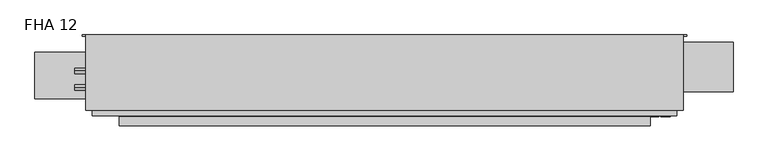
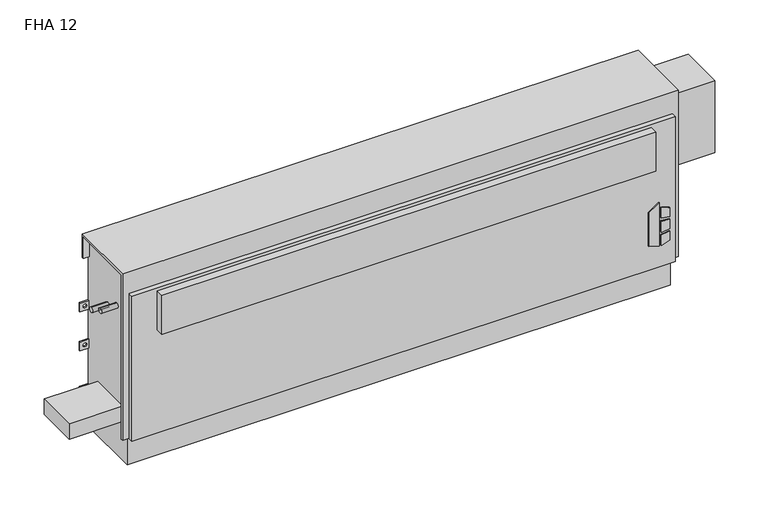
"""IFC4 building model written with IfcOpenShell, lengths in millimetres: proxy geometry, Vertical_Fan_Coil_Unit_-_FHA_-_IEC_-_2-Pipe_FS-FR_LH_2022 : FHA 12."""

from ifc_helpers import new_model, si_unit, point, frame, frame_2d, origin, place, context, project, spatial, polyline, circle_curve, trimmed, segment, composite_curve, outline, extrude, source, transform, mapped, element, save
from ifc_brep_helpers import plane_surface, revolved_surface, advanced_brep


def fha_12_b9f33cbb(model_context):
    return source(origin(), model_context, "Body", "SolidModel", [
        extrude(outline(polyline([(172.5771459, 906.5368862), (162.6290756, 938.7102728), (304.8, 938.7102728), (281.7779939, 906.5368862), (172.5771459, 906.5368862)])), frame((0.0, 9.525, 0.0), z_axis=(0.0, 1.0, 0.0), x_axis=(0.0, 0.0, 1.0)), (0.0, 0.0, 1.0), 3.175),
        extrude(outline(polyline([(251.5764313, 945.4686058), (248.3740387, 971.55), (277.6028798, 971.55), (285.6672948, 945.4686058), (251.5764313, 945.4686058)])), frame((0.0, 9.525, 0.0), z_axis=(0.0, 1.0, 0.0), x_axis=(0.0, 0.0, 1.0)), (0.0, 0.0, 1.0), 3.175),
        extrude(outline(polyline([(199.7129044, 971.55), (196.0474034, 945.4686058), (162.6290756, 945.4686058), (171.2633128, 971.55), (199.7129044, 971.55)])), frame((0.0, 9.525, 0.0), z_axis=(0.0, 1.0, 0.0), x_axis=(0.0, 0.0, 1.0)), (0.0, 0.0, 1.0), 3.175),
        extrude(outline(polyline([(239.0280658, 971.55), (241.3098921, 945.4686058), (205.3723436, 945.4686058), (208.1136086, 971.55), (239.0280658, 971.55)])), frame((0.0, 9.525, 0.0), z_axis=(0.0, 1.0, 0.0), x_axis=(0.0, 0.0, 1.0)), (0.0, 0.0, 1.0), 3.175),
        extrude(outline(composite_curve([segment(trimmed(circle_curve(frame_2d((-749.3, 128.5875)), 9.525), [point((-758.825, 128.5875))], [point((-739.775, 128.5875))], False, "CARTESIAN"), True, "CONTINUOUS"), segment(trimmed(circle_curve(frame_2d((-749.3, 128.5875)), 9.525), [point((-739.775, 128.5875))], [point((-758.825, 128.5875))], False, "CARTESIAN"), True, "CONTINUOUS")], self_intersect=False)), frame((0.0, 0.0, 101.6), z_axis=(0.0, 0.0, 1.0), x_axis=(1.0, 0.0, 0.0)), (0.0, 0.0, 1.0), 25.4),
        extrude(outline(polyline([(-850.9, 61.9125), (-850.9, 195.2625), (-685.8, 195.2625), (-685.8, 61.9125), (-850.9, 61.9125)])), frame((0.0, 0.0, 127.0), z_axis=(0.0, 0.0, 1.0), x_axis=(1.0, 0.0, 0.0)), (0.0, 0.0, 1.0), 50.8),
        extrude(outline(polyline([(914.4, -15.875), (-609.6, -15.875), (-609.6, 9.525), (914.4, 9.525), (914.4, -15.875)])), frame((0.0, 0.0, 431.8), z_axis=(0.0, 0.0, 1.0), x_axis=(1.0, 0.0, 0.0)), (0.0, 0.0, 1.0), 127.0),
        extrude(outline(composite_curve([segment(trimmed(circle_curve(frame_2d((93.1926, 488.0102)), 7.9375), [point((93.1926, 495.9477))], [point((93.1926, 480.0727))], False, "CARTESIAN"), True, "CONTINUOUS"), segment(trimmed(circle_curve(frame_2d((93.1926, 488.0102)), 7.9375), [point((93.1926, 480.0727))], [point((93.1926, 495.9477))], False, "CARTESIAN"), True, "CONTINUOUS")], self_intersect=False)), frame((-736.6, 0.0, 0.0), z_axis=(1.0, 0.0, 0.0), x_axis=(0.0, 1.0, 0.0)), (0.0, 0.0, 1.0), 50.8),
        extrude(outline(composite_curve([segment(trimmed(circle_curve(frame_2d((141.3002, 461.3402)), 7.9375), [point((141.3002, 469.2777))], [point((141.3002, 453.4027))], False, "CARTESIAN"), True, "CONTINUOUS"), segment(trimmed(circle_curve(frame_2d((141.3002, 461.3402)), 7.9375), [point((141.3002, 453.4027))], [point((141.3002, 469.2777))], False, "CARTESIAN"), True, "CONTINUOUS")], self_intersect=False)), frame((-736.6, 0.0, 0.0), z_axis=(1.0, 0.0, 0.0), x_axis=(0.0, 1.0, 0.0)), (0.0, 0.0, 1.0), 50.8),
        extrude(outline(polyline([(1152.525, 223.266), (1152.525, 81.534), (990.6, 81.534), (990.6, 223.266), (1152.525, 223.266)])), frame((0.0, 0.0, 349.25), z_axis=(0.0, 0.0, 1.0), x_axis=(1.0, 0.0, 0.0)), (0.0, 0.0, 1.0), 234.95),
        advanced_brep(
        [(1009.65, 244.475, 635.0), (-704.85, 244.475, 635.0), (-704.85, 28.575, 635.0), (1009.65, 28.575, 635.0), (-685.8, 244.475, 0.0), (990.6, 244.475, 0.0), (990.6, 38.1, 0.0), (-685.8, 38.1, 0.0), (1009.65, 244.475, 558.8), (990.6, 244.475, 558.8), (990.6, 244.475, 414.3375), (1019.175, 244.475, 414.3375), (1019.175, 244.475, 385.7625), (990.6, 244.475, 385.7625), (990.6, 244.475, 287.3375), (1019.175, 244.475, 287.3375), (1019.175, 244.475, 258.7625), (990.6, 244.475, 258.7625), (990.6, 244.475, 141.2875), (1019.175, 244.475, 141.2875), (1019.175, 244.475, 112.7125), (990.6, 244.475, 112.7125), (-685.8, 244.475, 112.7125), (-714.375, 244.475, 112.7125), (-714.375, 244.475, 141.2875), (-685.8, 244.475, 141.2875), (-685.8, 244.475, 258.7625), (-714.375, 244.475, 258.7625), (-714.375, 244.475, 287.3375), (-685.8, 244.475, 287.3375), (-685.8, 244.475, 385.7625), (-714.375, 244.475, 385.7625), (-714.375, 244.475, 414.3375), (-685.8, 244.475, 414.3375), (-685.8, 244.475, 558.8), (-704.85, 244.475, 558.8), (1008.8626, 244.475, 127.0), (997.7374, 244.475, 127.0), (-692.9374, 244.475, 127.0), (-704.0626, 244.475, 127.0), (1008.8626, 244.475, 273.05), (997.7374, 244.475, 273.05), (-692.9374, 244.475, 273.05), (-704.0626, 244.475, 273.05), (1008.8626, 244.475, 400.05), (997.7374, 244.475, 400.05), (-692.9374, 244.475, 400.05), (-704.0626, 244.475, 400.05), (-704.85, 238.125, 558.8), (-704.85, 238.125, 628.65), (-704.85, 34.925, 628.65), (-704.85, 34.925, 92.075), (-704.85, 28.575, 92.075), (990.6, 12.7, 565.15), (-685.8, 12.7, 565.15), (-685.8, 12.7, 92.075), (990.6, 12.7, 92.075), (1009.65, 28.575, 92.075), (1009.65, 34.925, 92.075), (1009.65, 34.925, 628.65), (1009.65, 238.125, 628.65), (1009.65, 238.125, 558.8), (-685.8, 28.575, 92.075), (-685.8, 28.575, 565.15), (990.6, 28.575, 565.15), (990.6, 28.575, 92.075), (-685.8, 34.925, 92.075), (-685.8, 38.1, 92.075), (990.6, 38.1, 92.075), (990.6, 34.925, 92.075), (990.6, 241.3, 112.7125), (990.6, 241.3, 141.2875), (990.6, 241.3, 258.7625), (990.6, 241.3, 287.3375), (990.6, 241.3, 385.7625), (990.6, 241.3, 414.3375), (990.6, 238.125, 558.8), (990.6, 238.125, 628.65), (990.6, 34.925, 628.65), (-685.8, 34.925, 628.65), (-685.8, 238.125, 628.65), (-685.8, 238.125, 558.8), (-685.8, 241.3, 414.3375), (-685.8, 241.3, 385.7625), (-685.8, 241.3, 287.3375), (-685.8, 241.3, 258.7625), (-685.8, 241.3, 141.2875), (-685.8, 241.3, 112.7125), (1019.175, 241.3, 112.7125), (1019.175, 241.3, 141.2875), (997.7374, 241.3, 127.0), (1008.8626, 241.3, 127.0), (1019.175, 241.3, 258.7625), (1019.175, 241.3, 287.3375), (997.7374, 241.3, 273.05), (1008.8626, 241.3, 273.05), (1019.175, 241.3, 385.7625), (1019.175, 241.3, 414.3375), (997.7374, 241.3, 400.05), (1008.8626, 241.3, 400.05), (-714.375, 241.3, 141.2875), (-714.375, 241.3, 112.7125), (-704.0626, 241.3, 127.0), (-692.9374, 241.3, 127.0), (-714.375, 241.3, 287.3375), (-714.375, 241.3, 258.7625), (-704.0626, 241.3, 273.05), (-692.9374, 241.3, 273.05), (-714.375, 241.3, 414.3375), (-714.375, 241.3, 385.7625), (-704.0626, 241.3, 400.05), (-692.9374, 241.3, 400.05)],
        [
            (0, 1),
            (1, 2),
            (2, 3),
            (3, 0),
            (4, 5),
            (5, 6),
            (6, 7),
            (7, 4),
            (0, 8),
            (8, 9),
            (9, 10),
            (10, 11),
            (11, 12),
            (12, 13),
            (13, 14),
            (14, 15),
            (15, 16),
            (16, 17),
            (17, 18),
            (18, 19),
            (19, 20),
            (20, 21),
            (21, 5),
            (4, 22),
            (22, 23),
            (23, 24),
            (24, 25),
            (25, 26),
            (26, 27),
            (27, 28),
            (28, 29),
            (29, 30),
            (30, 31),
            (31, 32),
            (32, 33),
            (33, 34),
            (34, 35),
            (35, 1),
            (36, 37, circle_curve(frame((1003.3, 244.475, 127.0), z_axis=(0.0, -1.0, 0.0), x_axis=(-1.0, 0.0, 0.0)), 5.5626)),
            (37, 36, circle_curve(frame((1003.3, 244.475, 127.0), z_axis=(0.0, -1.0, 0.0), x_axis=(-1.0, 0.0, 0.0)), 5.5626)),
            (38, 39, circle_curve(frame((-698.5, 244.475, 127.0), z_axis=(0.0, -1.0, 0.0), x_axis=(-1.0, 0.0, 0.0)), 5.5626)),
            (39, 38, circle_curve(frame((-698.5, 244.475, 127.0), z_axis=(0.0, -1.0, 0.0), x_axis=(-1.0, 0.0, 0.0)), 5.5626)),
            (40, 41, circle_curve(frame((1003.3, 244.475, 273.05), z_axis=(0.0, -1.0, 0.0), x_axis=(-1.0, 0.0, 0.0)), 5.5626)),
            (41, 40, circle_curve(frame((1003.3, 244.475, 273.05), z_axis=(0.0, -1.0, 0.0), x_axis=(-1.0, 0.0, 0.0)), 5.5626)),
            (42, 43, circle_curve(frame((-698.5, 244.475, 273.05), z_axis=(0.0, -1.0, 0.0), x_axis=(-1.0, 0.0, 0.0)), 5.5626)),
            (43, 42, circle_curve(frame((-698.5, 244.475, 273.05), z_axis=(0.0, -1.0, 0.0), x_axis=(-1.0, 0.0, 0.0)), 5.5626)),
            (44, 45, circle_curve(frame((1003.3, 244.475, 400.05), z_axis=(0.0, -1.0, 0.0), x_axis=(-1.0, 0.0, 0.0)), 5.5626)),
            (45, 44, circle_curve(frame((1003.3, 244.475, 400.05), z_axis=(0.0, -1.0, 0.0), x_axis=(-1.0, 0.0, 0.0)), 5.5626)),
            (46, 47, circle_curve(frame((-698.5, 244.475, 400.05), z_axis=(0.0, -1.0, 0.0), x_axis=(-1.0, 0.0, 0.0)), 5.5626)),
            (47, 46, circle_curve(frame((-698.5, 244.475, 400.05), z_axis=(0.0, -1.0, 0.0), x_axis=(-1.0, 0.0, 0.0)), 5.5626)),
            (35, 48),
            (48, 49),
            (49, 50),
            (50, 51),
            (51, 52),
            (52, 2),
            (53, 54),
            (54, 55),
            (55, 56),
            (56, 53),
            (3, 57),
            (57, 58),
            (58, 59),
            (59, 60),
            (60, 61),
            (61, 8),
            (52, 62),
            (62, 63),
            (63, 64),
            (64, 65),
            (65, 57),
            (53, 64),
            (63, 54),
            (55, 62),
            (51, 66),
            (66, 67),
            (67, 68),
            (68, 69),
            (69, 58),
            (65, 56),
            (6, 68),
            (67, 7),
            (21, 70),
            (70, 71),
            (71, 18),
            (17, 72),
            (72, 73),
            (73, 14),
            (13, 74),
            (74, 75),
            (75, 10),
            (9, 76),
            (76, 77),
            (77, 78),
            (78, 69),
            (66, 79),
            (79, 80),
            (80, 81),
            (81, 34),
            (33, 82),
            (82, 83),
            (83, 30),
            (29, 84),
            (84, 85),
            (85, 26),
            (25, 86),
            (86, 87),
            (87, 22),
            (76, 61),
            (60, 77),
            (78, 59),
            (50, 79),
            (81, 48),
            (80, 49),
            (70, 88),
            (88, 89),
            (89, 71),
            (90, 91, circle_curve(frame((1003.3, 241.3, 127.0), z_axis=(0.0, 1.0, 0.0), x_axis=(-1.0, 0.0, 0.0)), 5.5626)),
            (91, 90, circle_curve(frame((1003.3, 241.3, 127.0), z_axis=(0.0, 1.0, 0.0), x_axis=(-1.0, 0.0, 0.0)), 5.5626)),
            (92, 93),
            (93, 73),
            (72, 92),
            (94, 95, circle_curve(frame((1003.3, 241.3, 273.05), z_axis=(0.0, 1.0, 0.0), x_axis=(-1.0, 0.0, 0.0)), 5.5626)),
            (95, 94, circle_curve(frame((1003.3, 241.3, 273.05), z_axis=(0.0, 1.0, 0.0), x_axis=(-1.0, 0.0, 0.0)), 5.5626)),
            (96, 97),
            (97, 75),
            (74, 96),
            (98, 99, circle_curve(frame((1003.3, 241.3, 400.05), z_axis=(0.0, 1.0, 0.0), x_axis=(-1.0, 0.0, 0.0)), 5.5626)),
            (99, 98, circle_curve(frame((1003.3, 241.3, 400.05), z_axis=(0.0, 1.0, 0.0), x_axis=(-1.0, 0.0, 0.0)), 5.5626)),
            (100, 101),
            (101, 87),
            (86, 100),
            (102, 103, circle_curve(frame((-698.5, 241.3, 127.0), z_axis=(0.0, 1.0, 0.0), x_axis=(-1.0, 0.0, 0.0)), 5.5626)),
            (103, 102, circle_curve(frame((-698.5, 241.3, 127.0), z_axis=(0.0, 1.0, 0.0), x_axis=(-1.0, 0.0, 0.0)), 5.5626)),
            (84, 104),
            (104, 105),
            (105, 85),
            (106, 107, circle_curve(frame((-698.5, 241.3, 273.05), z_axis=(0.0, 1.0, 0.0), x_axis=(-1.0, 0.0, 0.0)), 5.5626)),
            (107, 106, circle_curve(frame((-698.5, 241.3, 273.05), z_axis=(0.0, 1.0, 0.0), x_axis=(-1.0, 0.0, 0.0)), 5.5626)),
            (108, 109),
            (109, 83),
            (82, 108),
            (110, 111, circle_curve(frame((-698.5, 241.3, 400.05), z_axis=(0.0, 1.0, 0.0), x_axis=(-1.0, 0.0, 0.0)), 5.5626)),
            (111, 110, circle_curve(frame((-698.5, 241.3, 400.05), z_axis=(0.0, 1.0, 0.0), x_axis=(-1.0, 0.0, 0.0)), 5.5626)),
            (89, 19),
            (88, 20),
            (16, 92),
            (93, 15),
            (12, 96),
            (97, 11),
            (24, 100),
            (101, 23),
            (105, 27),
            (104, 28),
            (32, 108),
            (109, 31),
            (90, 37),
            (36, 91),
            (102, 39),
            (38, 103),
            (94, 41),
            (40, 95),
            (106, 43),
            (42, 107),
            (98, 45),
            (44, 99),
            (110, 47),
            (46, 111),
        ],
        [
            plane_surface(frame((-704.85, 244.475, 635.0), z_axis=(0.0, 0.0, 1.0), x_axis=(-1.0, 0.0, 0.0))),
            plane_surface(frame((-704.85, 244.475, 0.0), z_axis=(0.0, 0.0, -1.0), x_axis=(1.0, 0.0, 0.0))),
            plane_surface(frame((1009.65, 244.475, 635.0), z_axis=(0.0, 1.0, 0.0), x_axis=(0.0, 0.0, -1.0))),
            plane_surface(frame((-704.85, 244.475, 635.0), z_axis=(-1.0, 0.0, 0.0), x_axis=(0.0, 0.0, -1.0))),
            plane_surface(frame((-704.85, 12.7, 635.0), z_axis=(0.0, -1.0, 0.0), x_axis=(0.0, 0.0, -1.0))),
            plane_surface(frame((1009.65, 12.7, 635.0), z_axis=(1.0, 0.0, 0.0), x_axis=(0.0, 0.0, -1.0))),
            plane_surface(frame((-1263.65, 28.575, 635.0), z_axis=(0.0, -1.0, 0.0), x_axis=(1.0, 0.0, 0.0))),
            plane_surface(frame((-1263.65, 28.575, 565.15), z_axis=(0.0, 0.0, 1.0), x_axis=(1.0, 0.0, 0.0))),
            plane_surface(frame((-704.85, 12.7, 92.075), z_axis=(0.0, 0.0, -1.0), x_axis=(1.0, 0.0, 0.0))),
            plane_surface(frame((-704.85, 38.1, 92.075), z_axis=(0.0, -1.0, 0.0), x_axis=(1.0, 0.0, 0.0))),
            plane_surface(frame((990.6, 28.575, 92.075), z_axis=(1.0, 0.0, 0.0), x_axis=(0.0, -1.0, 0.0))),
            plane_surface(frame((-685.8, 28.575, 565.15), z_axis=(-1.0, 0.0, 0.0), x_axis=(0.0, -1.0, 0.0))),
            plane_surface(frame((990.6, 244.475, 0.0), z_axis=(1.0, 0.0, 0.0), x_axis=(0.0, -1.0, 0.0))),
            plane_surface(frame((-685.8, 244.475, 92.075), z_axis=(-1.0, 0.0, 0.0), x_axis=(0.0, -1.0, 0.0))),
            plane_surface(frame((990.6, 238.125, 628.65), z_axis=(0.0, -1.0, 0.0), x_axis=(1.0, 0.0, 0.0))),
            plane_surface(frame((990.6, 238.125, 558.8), z_axis=(0.0, 0.0, -1.0), x_axis=(1.0, 0.0, 0.0))),
            plane_surface(frame((990.6, 34.925, 92.075), z_axis=(0.0, 1.0, 0.0), x_axis=(1.0, 0.0, 0.0))),
            plane_surface(frame((990.6, 34.925, 628.65), z_axis=(0.0, 0.0, -1.0), x_axis=(1.0, 0.0, 0.0))),
            plane_surface(frame((-685.8, 34.925, 628.65), z_axis=(0.0, 1.0, 0.0), x_axis=(-1.0, 0.0, 0.0))),
            plane_surface(frame((-685.8, 244.475, 558.8), z_axis=(0.0, 0.0, -1.0), x_axis=(-1.0, 0.0, 0.0))),
            plane_surface(frame((-685.8, 238.125, 558.8), z_axis=(0.0, -1.0, 0.0), x_axis=(-1.0, 0.0, 0.0))),
            plane_surface(frame((-685.8, 238.125, 628.65), z_axis=(0.0, 0.0, -1.0), x_axis=(-1.0, 0.0, 0.0))),
            plane_surface(frame((1019.175, 241.3, 141.2875), z_axis=(0.0, -1.0, 0.0), x_axis=(-1.0, 0.0, 0.0))),
            plane_surface(frame((990.6, 244.475, 141.2875), z_axis=(0.0, 0.0, 1.0), x_axis=(0.0, -1.0, 0.0))),
            plane_surface(frame((1019.175, 244.475, 141.2875), z_axis=(1.0, 0.0, 0.0), x_axis=(0.0, -1.0, 0.0))),
            plane_surface(frame((1019.175, 244.475, 112.7125), z_axis=(0.0, 0.0, -1.0), x_axis=(0.0, -1.0, 0.0))),
            plane_surface(frame((1019.175, 244.475, 258.7625), z_axis=(0.0, 0.0, -1.0), x_axis=(0.0, -1.0, 0.0))),
            plane_surface(frame((990.6, 244.475, 287.3375), z_axis=(0.0, 0.0, 1.0), x_axis=(0.0, -1.0, 0.0))),
            plane_surface(frame((1019.175, 244.475, 287.3375), z_axis=(1.0, 0.0, 0.0), x_axis=(0.0, -1.0, 0.0))),
            plane_surface(frame((1019.175, 244.475, 385.7625), z_axis=(0.0, 0.0, -1.0), x_axis=(0.0, -1.0, 0.0))),
            plane_surface(frame((990.6, 244.475, 414.3375), z_axis=(0.0, 0.0, 1.0), x_axis=(0.0, -1.0, 0.0))),
            plane_surface(frame((1019.175, 244.475, 414.3375), z_axis=(1.0, 0.0, 0.0), x_axis=(0.0, -1.0, 0.0))),
            plane_surface(frame((-714.375, 244.475, 141.2875), z_axis=(0.0, 0.0, 1.0), x_axis=(0.0, -1.0, 0.0))),
            plane_surface(frame((-685.8, 244.475, 112.7125), z_axis=(0.0, 0.0, -1.0), x_axis=(0.0, -1.0, 0.0))),
            plane_surface(frame((-714.375, 244.475, 112.7125), z_axis=(-1.0, 0.0, 0.0), x_axis=(0.0, -1.0, 0.0))),
            plane_surface(frame((-685.8, 244.475, 258.7625), z_axis=(0.0, 0.0, -1.0), x_axis=(0.0, -1.0, 0.0))),
            plane_surface(frame((-714.375, 244.475, 258.7625), z_axis=(-1.0, 0.0, 0.0), x_axis=(0.0, -1.0, 0.0))),
            plane_surface(frame((-714.375, 244.475, 287.3375), z_axis=(0.0, 0.0, 1.0), x_axis=(0.0, -1.0, 0.0))),
            plane_surface(frame((-714.375, 244.475, 414.3375), z_axis=(0.0, 0.0, 1.0), x_axis=(0.0, -1.0, 0.0))),
            plane_surface(frame((-685.8, 244.475, 385.7625), z_axis=(0.0, 0.0, -1.0), x_axis=(0.0, -1.0, 0.0))),
            plane_surface(frame((-714.375, 244.475, 385.7625), z_axis=(-1.0, 0.0, 0.0), x_axis=(0.0, -1.0, 0.0))),
            revolved_surface(polyline([(997.7374, 241.3, 127.0), (997.7374, 244.475, 127.0)]), (1003.3, 244.475, 127.0), (0.0, -1.0, 0.0)),
            revolved_surface(polyline([(-704.0626, 241.3, 127.0), (-704.0626, 244.475, 127.0)]), (-698.5, 244.475, 127.0), (0.0, -1.0, 0.0)),
            revolved_surface(polyline([(997.7374, 241.3, 273.05), (997.7374, 244.475, 273.05)]), (1003.3, 244.475, 273.05), (0.0, -1.0, 0.0)),
            revolved_surface(polyline([(-704.0626, 241.3, 273.05), (-704.0626, 244.475, 273.05)]), (-698.5, 244.475, 273.05), (0.0, -1.0, 0.0)),
            revolved_surface(polyline([(997.7374, 241.3, 400.05), (997.7374, 244.475, 400.05)]), (1003.3, 244.475, 400.05), (0.0, -1.0, 0.0)),
            revolved_surface(polyline([(-704.0626, 241.3, 400.05), (-704.0626, 244.475, 400.05)]), (-698.5, 244.475, 400.05), (0.0, -1.0, 0.0)),
        ],
        [
            (0, [[1, 2, 3, 4]]),
            (1, [[5, 6, 7, 8]]),
            (2, [[-1, 9, 10, 11, 12, 13, 14, 15, 16, 17, 18, 19, 20, 21, 22, 23, -5, 24, 25, 26, 27, 28, 29, 30, 31, 32, 33, 34, 35, 36, 37, 38], [39, 40], [41, 42], [43, 44], [45, 46], [47, 48], [49, 50]]),
            (3, [[-2, -38, 51, 52, 53, 54, 55, 56]]),
            (4, [[57, 58, 59, 60]]),
            (5, [[-4, 61, 62, 63, 64, 65, 66, -9]]),
            (6, [[-3, -56, 67, 68, 69, 70, 71, -61]]),
            (7, [[-57, 72, -69, 73]]),
            (8, [[-59, 74, -67, -55, 75, 76, 77, 78, 79, -62, -71, 80]]),
            (9, [[-7, 81, -77, 82]]),
            (10, [[-70, -72, -60, -80]]),
            (11, [[-68, -74, -58, -73]]),
            (12, [[-6, -23, 83, 84, 85, -19, 86, 87, 88, -15, 89, 90, 91, -11, 92, 93, 94, 95, -78, -81]]),
            (13, [[-8, -82, -76, 96, 97, 98, 99, -36, 100, 101, 102, -32, 103, 104, 105, -28, 106, 107, 108, -24]]),
            (14, [[-93, 109, -65, 110]]),
            (15, [[-92, -10, -66, -109]]),
            (16, [[-95, 111, -63, -79]]),
            (17, [[-94, -110, -64, -111]]),
            (18, [[-96, -75, -54, 112]]),
            (19, [[-99, 113, -51, -37]]),
            (20, [[-98, 114, -52, -113]]),
            (21, [[-97, -112, -53, -114]]),
            (22, [[115, 116, 117, -84], [118, 119]]),
            (22, [[120, 121, -87, 122], [123, 124]]),
            (22, [[125, 126, -90, 127], [128, 129]]),
            (22, [[130, 131, -107, 132], [133, 134]]),
            (22, [[135, 136, 137, -104], [138, 139]]),
            (22, [[140, 141, -101, 142], [143, 144]]),
            (23, [[-117, 145, -20, -85]]),
            (24, [[-116, 146, -21, -145]]),
            (25, [[-115, -83, -22, -146]]),
            (26, [[-122, -86, -18, 147]]),
            (27, [[-121, 148, -16, -88]]),
            (28, [[-120, -147, -17, -148]]),
            (29, [[-127, -89, -14, 149]]),
            (30, [[-126, 150, -12, -91]]),
            (31, [[-125, -149, -13, -150]]),
            (32, [[-132, -106, -27, 151]]),
            (33, [[-131, 152, -25, -108]]),
            (34, [[-130, -151, -26, -152]]),
            (35, [[-137, 153, -29, -105]]),
            (36, [[-136, 154, -30, -153]]),
            (37, [[-135, -103, -31, -154]]),
            (38, [[-142, -100, -35, 155]]),
            (39, [[-141, 156, -33, -102]]),
            (40, [[-140, -155, -34, -156]]),
            (41, [[157, -39, 158, -118]]),
            (41, [[-157, -119, -158, -40]]),
            (42, [[159, -41, 160, -133]]),
            (42, [[-159, -134, -160, -42]]),
            (43, [[161, -43, 162, -123]]),
            (43, [[-161, -124, -162, -44]]),
            (44, [[163, -45, 164, -138]]),
            (44, [[-163, -139, -164, -46]]),
            (45, [[165, -47, 166, -128]]),
            (45, [[-165, -129, -166, -48]]),
            (46, [[167, -49, 168, -143]]),
            (46, [[-167, -144, -168, -50]]),
        ],
    ),
    ])


if __name__ == "__main__":
    model = new_model("IFC4")
    model_context = context("Model", 3, world=origin())
    ifc_project = project(units=[si_unit("LENGTHUNIT", "METRE", prefix="MILLI")], contexts=[model_context])
    site = spatial("IfcSite", under=ifc_project)
    building = spatial("IfcBuilding", under=site)
    placement = place(None, origin())
    fha_12_shape = fha_12_b9f33cbb(model_context)
    element("IfcBuildingElementProxy", 1, Name="Vertical_Fan_Coil_Unit_-_FHA_-_IEC_-_2-Pipe_FS-FR_LH_2022 : FHA 12", ObjectType="Vertical_Fan_Coil_Unit_-_FHA_-_IEC_-_2-Pipe_FS-FR_LH_2022 : FHA 12", at=placement, inside=building, context=model_context, shape_type="MappedRepresentation", body=[
        mapped(fha_12_shape, transform((0.0, 0.0, 0.0), x_axis=(1.0, 0.0, 0.0), y_axis=(0.0, 1.0, 0.0), z_axis=(0.0, 0.0, 1.0))),
    ])
    save(model, "model.ifc")
